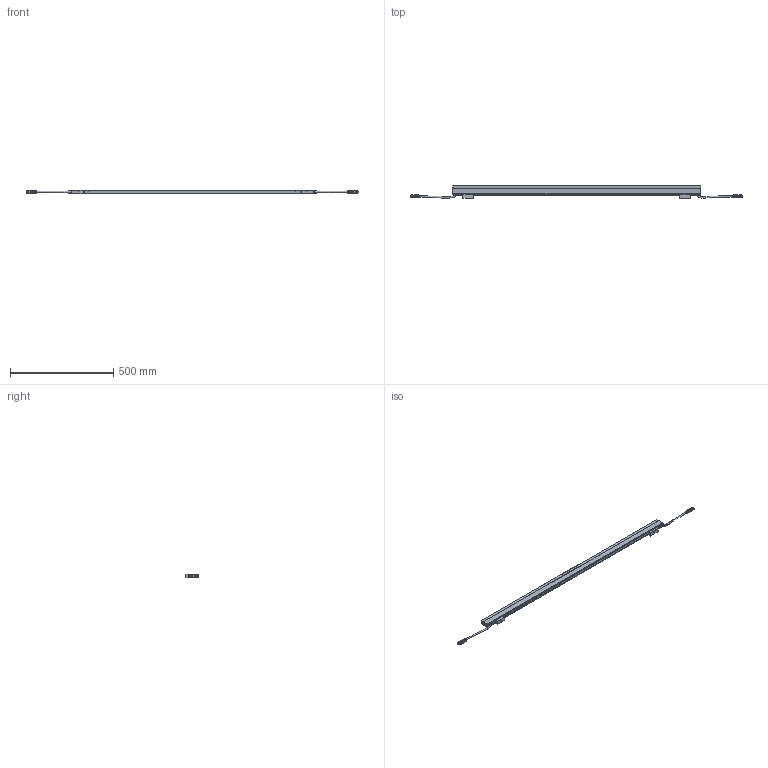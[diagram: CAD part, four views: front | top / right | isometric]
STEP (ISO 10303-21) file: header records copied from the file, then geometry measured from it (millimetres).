
FILE_DESCRIPTION (( 'STEP AP214' ), '1' );
FILE_NAME ('DiGi Linear V-Series L1200 Square.STEP', '2025-07-22T11:43:56', ( '' ), ( '' ), 'SwSTEP 2.0', 'SolidWorks 2025', '' );
FILE_SCHEMA (( 'AUTOMOTIVE_DESIGN' ));
Length unit declared in the file: millimetre
Products named in the file (7): DiGi Linear V-Series L1200 Square; DiGi Linear V-serie - Body_L1200 Square; DiGi Linear V-serie - Clip; M12 3p Female; Counter sunk screw torx_M2x6; M12 3p Male; DiGi Linear V-serie - Cabling_L1200
Assembly tree (10 placements, depth 2):
  DiGi Linear V-Series L1200 Square
    DiGi Linear V-serie - Body_L1200 Square
    DiGi Linear V-serie - Clip  x2
    M12 3p Male
    M12 3p Female
    DiGi Linear V-serie - Cabling_L1200
    Counter sunk screw torx_M2x6  x4
Bounding box: 1607.4 x 59.99 x 18.3 mm (x, y, z)
Volume: 951397.6 mm3; surface area: 194457.1 mm2
Topology: 13 solids, 13 shells, 1288 faces, 3239 edges, 2020 vertices
Faces by surface type: plane 493, cylinder 358, bspline 184, torus 161, cone 80, sphere 12
Full cylindrical faces by diameter (mm): 2 x4, 2.4 x4, 3 x4, 6.5 x6, 9.7 x1, 10 x2, 10.8 x1, 12.3 x1, 14.3 x2
Entity records: 54080 total; most frequent: CARTESIAN_POINT 17232, ORIENTED_EDGE 5846, DIRECTION 4845, EDGE_CURVE 2923, VERTEX_POINT 1836, AXIS2_PLACEMENT_3D 1823, EDGE_LOOP 1283, FACE_OUTER_BOUND 1212
